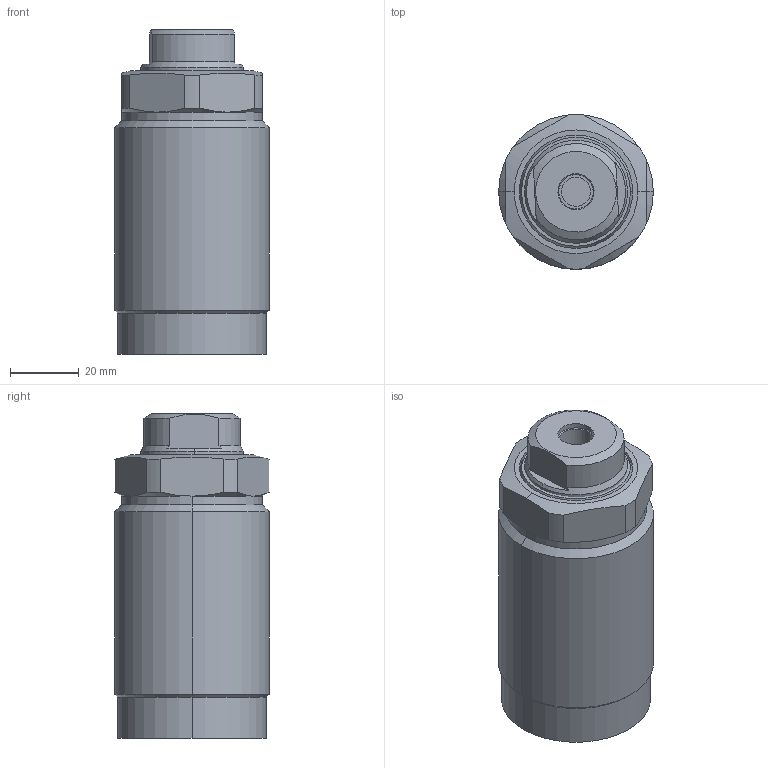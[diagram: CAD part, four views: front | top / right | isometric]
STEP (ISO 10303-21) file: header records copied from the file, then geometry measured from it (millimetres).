
FILE_DESCRIPTION (( 'STEP AP203' ), '1' );
FILE_NAME ('650451-AL.step', '2016-11-02T03:14:36', ( 'wxp' ), ( '' ), 'SwSTEP 2.0', 'SolidWorks 2011', '' );
FILE_SCHEMA (( 'CONFIG_CONTROL_DESIGN' ));
Length unit declared in the file: millimetre
Products named in the file (3): 650451-AL; 葩璃 650451-AL.sldasm-Part-2^650451-AL; 葩璃 650451-AL.sldasm-Part-1^650451-AL
Assembly tree (2 placements, depth 2):
  650451-AL
    葩璃 650451-AL.sldasm-Part-1^650451-AL
    葩璃 650451-AL.sldasm-Part-2^650451-AL
Bounding box: 45 x 45 x 94.5 mm (x, y, z)
Volume: 148788.1 mm3; surface area: 20886.8 mm2
Topology: 2 solids, 2 shells, 80 faces, 180 edges, 111 vertices
Faces by surface type: cylinder 34, plane 22, cone 18, torus 6
Entity records: 2643 total; most frequent: CARTESIAN_POINT 530, DIRECTION 416, ORIENTED_EDGE 356, EDGE_CURVE 178, AXIS2_PLACEMENT_3D 177, VERTEX_POINT 111, CIRCLE 92, EDGE_LOOP 89
